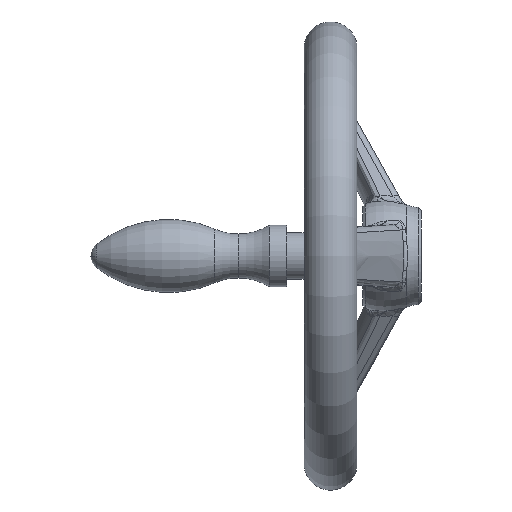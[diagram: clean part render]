
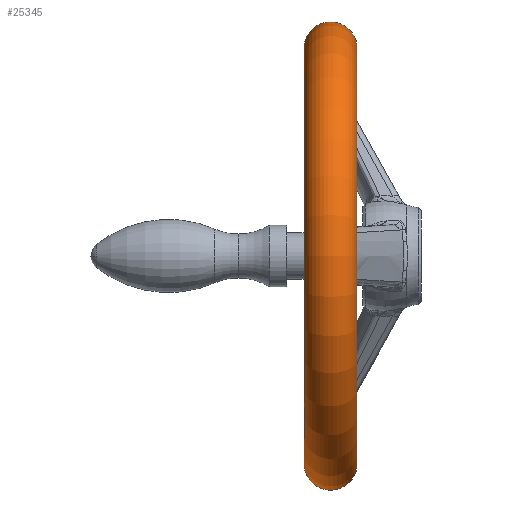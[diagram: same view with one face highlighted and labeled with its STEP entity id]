
A CAD part, left-side view. The second image highlights one B-rep face of the part: STEP entity #25345.
In plain terms, the highlighted toroidal (fillet/blend) face has major radius 70.938 mm and minor radius 9.062 mm.
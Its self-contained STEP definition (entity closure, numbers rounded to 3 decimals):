
#2635 = CARTESIAN_POINT ( 'NONE',  ( 0., 22., 72. ) ) ;
#3319 = CARTESIAN_POINT ( 'NONE',  ( 0., 22., 0. ) ) ;
#3321 = CIRCLE ( 'NONE', #3379, 72. ) ;
#3377 = DIRECTION ( 'NONE',  ( 0., 0., -1. ) ) ;
#3378 = DIRECTION ( 'NONE',  ( 0., -1., 0. ) ) ;
#3379 = AXIS2_PLACEMENT_3D ( 'NONE', #3319, #3378, #3377 ) ;
#6388 = EDGE_CURVE ( 'NONE', #12155, #22410, #16192, .T. ) ;
#12150 = VERTEX_POINT ( 'NONE', #17666 ) ;
#12154 = EDGE_CURVE ( 'NONE', #12150, #12155, #17653, .T. ) ;
#12155 = VERTEX_POINT ( 'NONE', #17654 ) ;
#16076 = DIRECTION ( 'NONE',  ( 0., 0., 1. ) ) ;
#16189 = DIRECTION ( 'NONE',  ( -1., 0., 0. ) ) ;
#16190 = CARTESIAN_POINT ( 'NONE',  ( 0., 31., -70.938 ) ) ;
#16191 = AXIS2_PLACEMENT_3D ( 'NONE', #16190, #16189, #16076 ) ;
#16192 = CIRCLE ( 'NONE', #16191, 9.063 ) ;
#17599 = CARTESIAN_POINT ( 'NONE',  ( 0., 40., 0. ) ) ;
#17642 = AXIS2_PLACEMENT_3D ( 'NONE', #17599, #17708, #17707 ) ;
#17653 = CIRCLE ( 'NONE', #17642, 72. ) ;
#17654 = CARTESIAN_POINT ( 'NONE',  ( 0., 40., -72. ) ) ;
#17666 = CARTESIAN_POINT ( 'NONE',  ( 0., 40., 72. ) ) ;
#17707 = DIRECTION ( 'NONE',  ( 0., 0., -1. ) ) ;
#17708 = DIRECTION ( 'NONE',  ( 0., -1., 0. ) ) ;
#20100 = CARTESIAN_POINT ( 'NONE',  ( 0., 22., -72. ) ) ;
#20279 = CARTESIAN_POINT ( 'NONE',  ( 0., 31., 70.938 ) ) ;
#20280 = AXIS2_PLACEMENT_3D ( 'NONE', #20279, #20330, #20328 ) ;
#20281 = CIRCLE ( 'NONE', #20280, 9.063 ) ;
#20328 = DIRECTION ( 'NONE',  ( 0., 0., -1. ) ) ;
#20330 = DIRECTION ( 'NONE',  ( 1., 0., 0. ) ) ;
#21607 = FACE_OUTER_BOUND ( 'NONE', #25296, .T. ) ;
#21627 = DIRECTION ( 'NONE',  ( 0., 0., -1. ) ) ;
#21628 = DIRECTION ( 'NONE',  ( 0., -1., 0. ) ) ;
#21637 = TOROIDAL_SURFACE ( 'NONE', #21651, 70.938, 9.063 ) ;
#21650 = CARTESIAN_POINT ( 'NONE',  ( 0., 31., 0. ) ) ;
#21651 = AXIS2_PLACEMENT_3D ( 'NONE', #21650, #21628, #21627 ) ;
#22127 = EDGE_CURVE ( 'NONE', #12150, #22351, #20281, .T. ) ;
#22351 = VERTEX_POINT ( 'NONE', #2635 ) ;
#22410 = VERTEX_POINT ( 'NONE', #20100 ) ;
#22605 = EDGE_CURVE ( 'NONE', #22351, #22410, #3321, .T. ) ;
#25296 = EDGE_LOOP ( 'NONE', ( #25325, #25333, #25306, #25305 ) ) ;
#25305 = ORIENTED_EDGE ( 'NONE', *, *, #22605, .F. ) ;
#25306 = ORIENTED_EDGE ( 'NONE', *, *, #6388, .T. ) ;
#25325 = ORIENTED_EDGE ( 'NONE', *, *, #22127, .F. ) ;
#25333 = ORIENTED_EDGE ( 'NONE', *, *, #12154, .T. ) ;
#25345 = ADVANCED_FACE ( 'NONE', ( #21607 ), #21637, .T. ) ;
